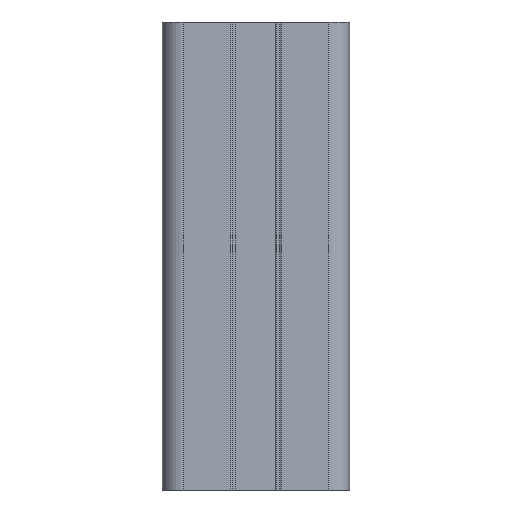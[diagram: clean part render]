
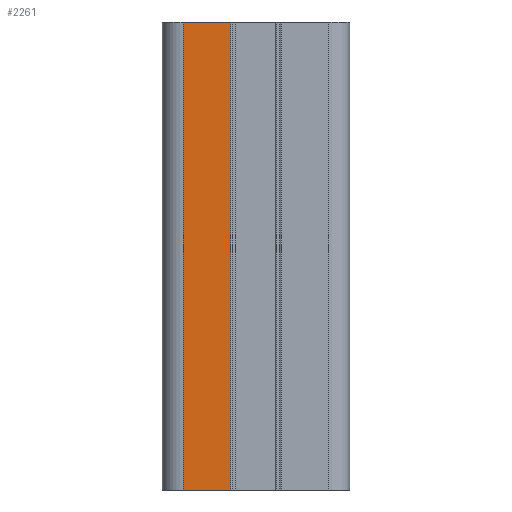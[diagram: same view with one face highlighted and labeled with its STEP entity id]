
A CAD part, front view. The second image highlights one B-rep face of the part: STEP entity #2261.
In plain terms, the highlighted planar face has unit normal (0, -1, 0).
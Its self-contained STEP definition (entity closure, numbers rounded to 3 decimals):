
#730=CARTESIAN_POINT('',(216.999,96.452,0.0));
#731=VERTEX_POINT('',#730);
#739=CARTESIAN_POINT('',(206.899,96.452,0.0));
#740=VERTEX_POINT('',#739);
#741=CARTESIAN_POINT('',(206.899,96.452,0.0));
#742=DIRECTION('',(1.0,0.0,0.0));
#743=VECTOR('',#742,10.1);
#744=LINE('',#741,#743);
#745=EDGE_CURVE('',#740,#731,#744,.T.);
#1399=CARTESIAN_POINT('',(206.899,96.452,100.0));
#1400=VERTEX_POINT('',#1399);
#1408=CARTESIAN_POINT('',(216.999,96.452,100.0));
#1409=VERTEX_POINT('',#1408);
#1410=CARTESIAN_POINT('',(216.999,96.452,100.0));
#1411=DIRECTION('',(-1.0,0.0,0.0));
#1412=VECTOR('',#1411,10.1);
#1413=LINE('',#1410,#1412);
#1414=EDGE_CURVE('',#1409,#1400,#1413,.T.);
#2234=CARTESIAN_POINT('',(216.999,96.452,0.0));
#2235=DIRECTION('',(0.0,0.0,1.0));
#2236=VECTOR('',#2235,100.0);
#2237=LINE('',#2234,#2236);
#2238=EDGE_CURVE('',#731,#1409,#2237,.T.);
#2245=CARTESIAN_POINT('',(216.999,96.452,0.0));
#2246=DIRECTION('',(0.0,-1.0,0.0));
#2247=DIRECTION('',(0.0,0.0,-1.0));
#2248=AXIS2_PLACEMENT_3D('',#2245,#2246,#2247);
#2249=PLANE('',#2248);
#2250=ORIENTED_EDGE('',*,*,#1414,.T.);
#2251=CARTESIAN_POINT('',(206.899,96.452,0.0));
#2252=DIRECTION('',(0.0,0.0,1.0));
#2253=VECTOR('',#2252,100.0);
#2254=LINE('',#2251,#2253);
#2255=EDGE_CURVE('',#740,#1400,#2254,.T.);
#2256=ORIENTED_EDGE('',*,*,#2255,.F.);
#2257=ORIENTED_EDGE('',*,*,#745,.T.);
#2258=ORIENTED_EDGE('',*,*,#2238,.T.);
#2259=EDGE_LOOP('',(#2250,#2256,#2257,#2258));
#2260=FACE_OUTER_BOUND('',#2259,.T.);
#2261=ADVANCED_FACE('',(#2260),#2249,.T.);
